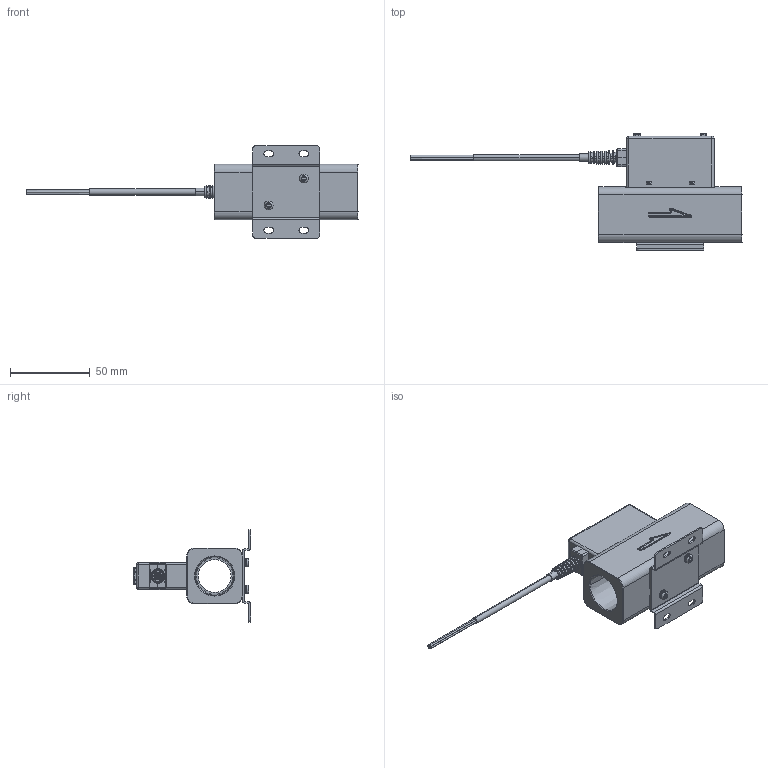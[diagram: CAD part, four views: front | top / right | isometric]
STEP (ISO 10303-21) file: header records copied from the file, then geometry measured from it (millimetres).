
FILE_DESCRIPTION(('STEP AP214'),'1');
FILE_NAME('-F10C.stp','2025-12-24T01:42:32',(' '),(' '),'Spatial InterOp 3D',' ',' ');
FILE_SCHEMA(('AUTOMOTIVE_DESIGN { 1 0 10303 214 1 1 1 1 }'));
Length unit declared in the file: millimetre
Products named in the file (8): FP02-202-※※※-F10C; FP02; BT-28; SCR-0152-A1; I-0518-A1-2000L-HOLDER; CN-0075A-01-A1_SW0001
Assembly tree (9 placements, depth 3):
  FP02-202-※※※-F10C
    FP02
    BT-28
      SCR-0152-A1  x2
      SCR-0152-A1  x2
      I-0518-A1-2000L-HOLDER
    CN-0075A-01-A1_SW0001
    CN-0075A-01-A1_SW0001
Bounding box: 208.1 x 73.4 x 58 mm (x, y, z)
Volume: 105854.1 mm3; surface area: 36286.6 mm2
Topology: 7 solids, 219 shells, 1111 faces, 3652 edges, 2800 vertices
Faces by surface type: plane 628, cylinder 272, bspline 89, cone 60, torus 54, sphere 8
Entity records: 52838 total; most frequent: CARTESIAN_POINT 17409, ORIENTED_EDGE 5610, DIRECTION 4666, EDGE_CURVE 3445, VERTEX_POINT 2667, AXIS2_PLACEMENT_3D 1642, LINE 1382, VECTOR 1382
